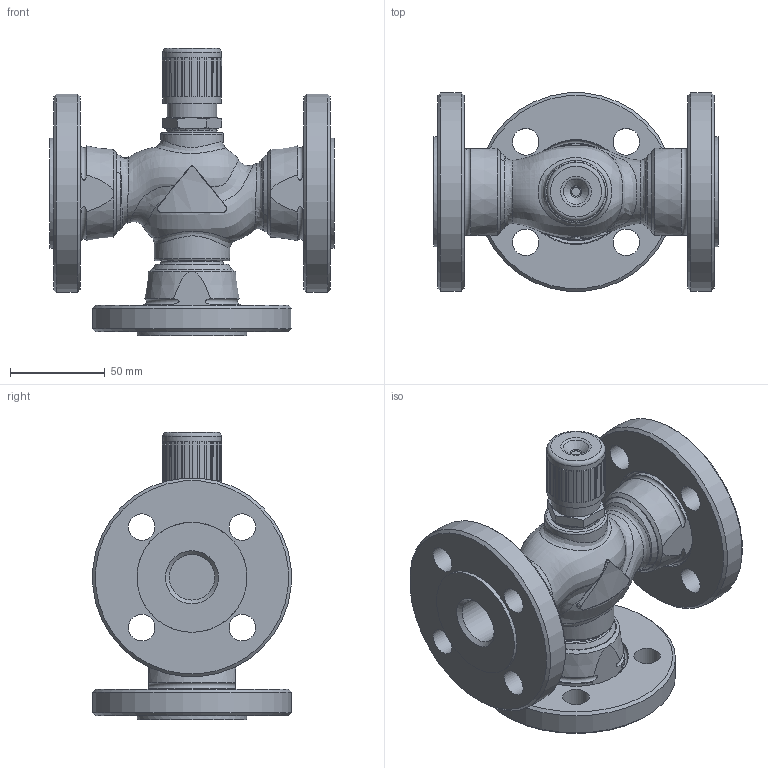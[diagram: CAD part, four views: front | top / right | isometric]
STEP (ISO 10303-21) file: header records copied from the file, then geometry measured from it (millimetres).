
FILE_DESCRIPTION(/* description */ (''),/* implementation_level */ '2;1');
FILE_NAME(/* name */ 'rv111r_dn20_3_F.stp',/* time_stamp */ '2012-02-21T11:36:37+01:00',/* author */ ('KLIMES'),/* organization */ ('LDM'),/* preprocessor_version */ 'ST-DEVELOPER v11',/* originating_system */ 'SIEMENS PLM Software NX 7.0',/* authorisation */ '');
FILE_SCHEMA (('CONFIG_CONTROL_DESIGN'));
Length unit declared in the file: millimetre
Products named in the file (1): klim56BEqbjt
Bounding box: 150 x 104.6 x 151.4 mm (x, y, z)
Volume: 595429.1 mm3; surface area: 119031.3 mm2
Topology: 5 solids, 5 shells, 335 faces, 776 edges, 498 vertices
Faces by surface type: plane 151, cone 80, cylinder 55, bspline 25, torus 24
Full cylindrical faces by diameter (mm): 8 x1, 14 x12, 23.4 x1, 24 x3, 24.117 x1, 26 x1, 26.5 x1, 30.8 x1, 32.5 x1, 33 x1, 38.952 x3, 40 x1, 41.91 x3, 42 x3, 58 x3, 105 x3
Entity records: 14807 total; most frequent: CARTESIAN_POINT 7706, DIRECTION 1450, ORIENTED_EDGE 1296, EDGE_CURVE 648, AXIS2_PLACEMENT_3D 608, EDGE_LOOP 504, VERTEX_POINT 462, ADVANCED_FACE 335
